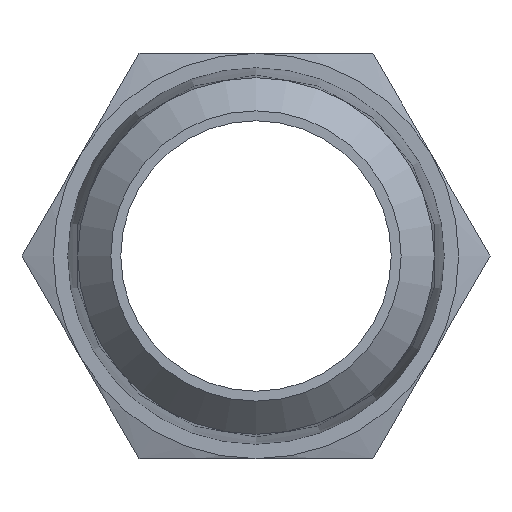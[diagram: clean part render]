
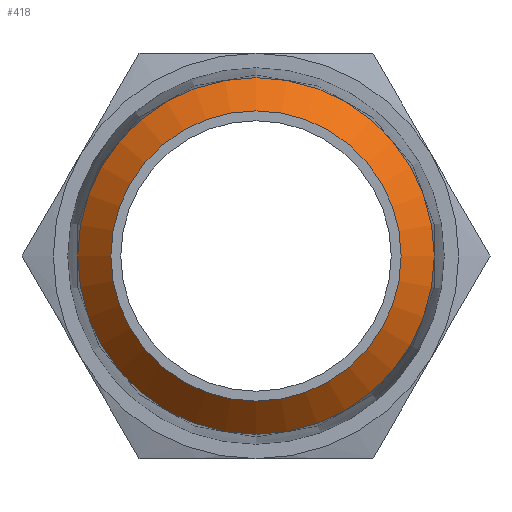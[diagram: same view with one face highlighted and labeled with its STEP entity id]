
A CAD part, left-side view. The second image highlights one B-rep face of the part: STEP entity #418.
In plain terms, the highlighted conical face has half-angle 45 degrees and reference radius 5.112 mm.
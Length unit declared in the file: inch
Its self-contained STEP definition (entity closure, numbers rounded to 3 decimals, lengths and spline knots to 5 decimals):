
#57=CIRCLE('',#473,0.20126);
#59=CIRCLE('',#476,0.24721);
#104=ORIENTED_EDGE('',*,*,#214,.F.);
#105=ORIENTED_EDGE('',*,*,#212,.T.);
#212=EDGE_CURVE('',#259,#259,#57,.T.);
#214=EDGE_CURVE('',#261,#261,#59,.T.);
#259=VERTEX_POINT('',#756);
#261=VERTEX_POINT('',#761);
#310=EDGE_LOOP('',(#104));
#311=EDGE_LOOP('',(#105));
#356=FACE_BOUND('',#310,.T.);
#357=FACE_BOUND('',#311,.T.);
#400=CONICAL_SURFACE('',#475,0.20126,0.785);
#418=ADVANCED_FACE('',(#356,#357),#400,.T.);
#473=AXIS2_PLACEMENT_3D('',#755,#553,#554);
#475=AXIS2_PLACEMENT_3D('',#759,#557,#558);
#476=AXIS2_PLACEMENT_3D('',#760,#559,#560);
#553=DIRECTION('',(1.,0.,0.));
#554=DIRECTION('',(0.,0.,-1.));
#557=DIRECTION('',(1.,0.,0.));
#558=DIRECTION('',(0.,0.,-1.));
#559=DIRECTION('',(1.,0.,0.));
#560=DIRECTION('',(0.,0.,-1.));
#755=CARTESIAN_POINT('',(0.,0.,0.));
#756=CARTESIAN_POINT('',(0.,0.,-0.20126));
#759=CARTESIAN_POINT('',(0.,0.,0.));
#760=CARTESIAN_POINT('',(0.04596,0.,0.));
#761=CARTESIAN_POINT('',(0.04596,0.,-0.24721));
